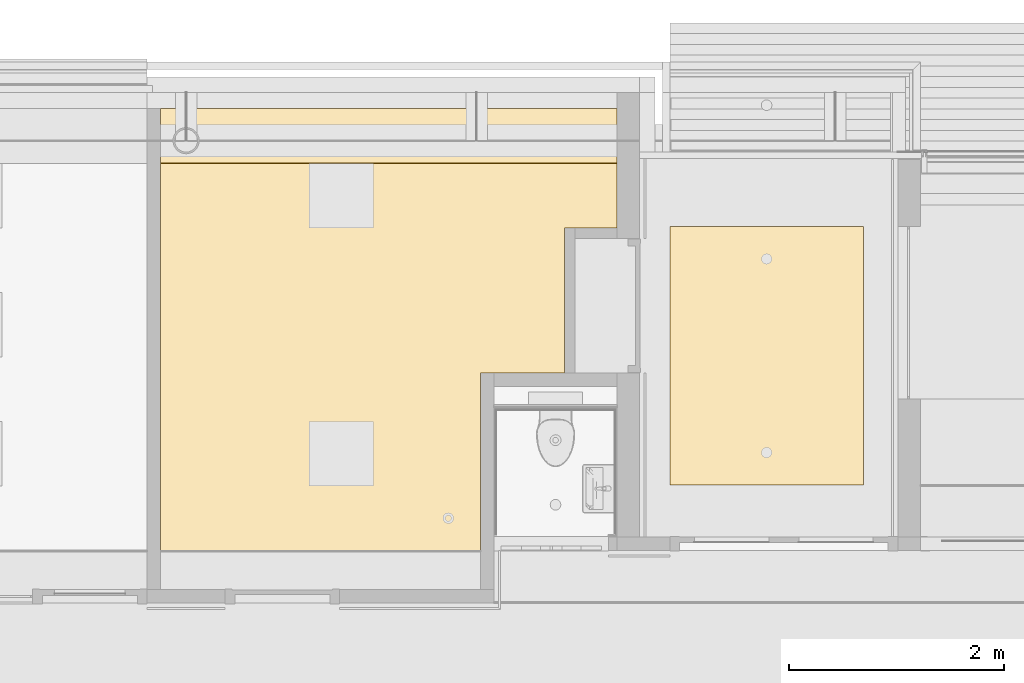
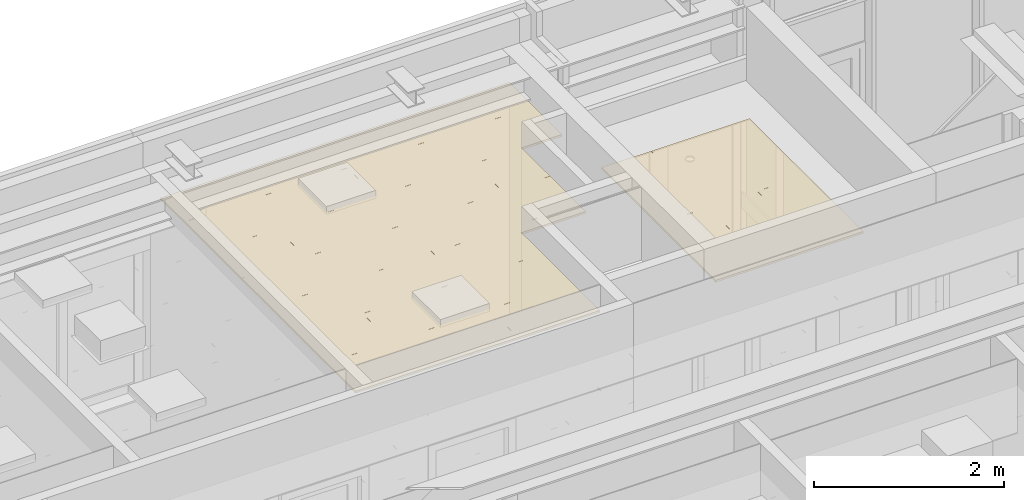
# One storey, part 161 of 347: 2 coverings.
"""IFC2X3 building model written with IfcOpenShell, lengths in millimetres."""

from ifc_helpers import new_model, entity, si_unit, converted_unit, derived_unit, money_unit, direction, frame, origin_with_axes, place, context, subcontext, project, spatial, faceted_brep, type_object, element, save


model = new_model("IFC2X3")

# Units and contexts
model_context = context("Model", 3, precision=0.01, world=origin_with_axes(), true_north=direction((0.0, 1.0)))
plan_context = context("Plan", 3, precision=0.01, world=origin_with_axes(), true_north=direction((0.0, 1.0)))
body_context = subcontext(model_context, "Body", "Model", "MODEL_VIEW")
ifc_project = project(units=[si_unit("LENGTHUNIT", "METRE", prefix="MILLI"), si_unit("AREAUNIT", "SQUARE_METRE"), si_unit("VOLUMEUNIT", "CUBIC_METRE"), converted_unit("PLANEANGLEUNIT", "DEGREE", entity("IfcPlaneAngleMeasure", 0.0174532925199), si_unit("PLANEANGLEUNIT", "RADIAN"), dimensions=[0, 0, 0, 0, 0, 0, 0]), money_unit("EUR"), converted_unit("TIMEUNIT", "Year", entity("IfcTimeMeasure", 31556926.0), si_unit("TIMEUNIT", "SECOND"), dimensions=[0, 0, 1, 0, 0, 0, 0]), si_unit("MASSUNIT", "GRAM", prefix="KILO"), si_unit("THERMODYNAMICTEMPERATUREUNIT", "DEGREE_CELSIUS"), si_unit("LUMINOUSINTENSITYUNIT", "LUMEN"), si_unit("ENERGYUNIT", "JOULE", prefix="MEGA"), derived_unit("THERMALCONDUCTANCEUNIT", [(si_unit("POWERUNIT", "WATT"), 1), (si_unit("LENGTHUNIT", "METRE"), -1), (si_unit("THERMODYNAMICTEMPERATUREUNIT", "KELVIN"), -1)]), derived_unit("SPECIFICHEATCAPACITYUNIT", [(si_unit("ENERGYUNIT", "JOULE"), 1), (si_unit("MASSUNIT", "GRAM", prefix="KILO"), -1), (si_unit("THERMODYNAMICTEMPERATUREUNIT", "KELVIN"), -1)]), derived_unit("MASSDENSITYUNIT", [(si_unit("MASSUNIT", "GRAM", prefix="KILO"), 1), (si_unit("VOLUMEUNIT", "CUBIC_METRE"), -1)])], contexts=[model_context, plan_context])

# Site, building, storey
site_placement = place(None, origin_with_axes())
site = spatial("IfcSite", under=ifc_project, at=site_placement, Name="Site", CompositionType="ELEMENT")
building_placement = place(site_placement, origin_with_axes())
building = spatial("IfcBuilding", under=site, at=building_placement, Name="Naam gebouw", CompositionType="ELEMENT")
storey_placement = place(building_placement, origin_with_axes())
storey = spatial("IfcBuildingStorey", under=building, at=storey_placement, Name="begane grond", CompositionType="ELEMENT", Elevation=0.0)

# Coverings
covering_type = type_object("IfcCoveringType", Name="Ceiling Editor INT_v2.01", PredefinedType="CEILING")
covering_1_placement = place(storey_placement, frame((16285.0000525, 15500.0, 2600.0), z_axis=(0.0, 0.0, 1.0), x_axis=(1.0, 0.0, 0.0)))
element("IfcCovering", 1, at=covering_1_placement, inside=storey, type_object=covering_type, Name="45 Plafondafwerkingen_77 garderobe", PredefinedType="CEILING", context=body_context, shape_type="Brep", body=[
    faceted_brep([(599.9, 0.100000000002, 20.0), (599.9, 0.100000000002, 0.0), (599.9, 1199.9, 0.0), (599.9, 1199.9, 20.0), (0.1, 0.100000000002, 20.0), (0.1, 0.100000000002, 0.0), (0.1, 1199.9, 0.0), (0.1, 1199.9, 20.0)], [[[0, 1, 2, 3]], [[4, 5, 1, 0]], [[2, 1, 5, 6]], [[3, 2, 6, 7]], [[4, 0, 3, 7]], [[7, 6, 5, 4]]]),
    faceted_brep([(599.9, 1200.1, 20.0), (599.9, 1200.1, 0.0), (599.9, 2399.9, 0.0), (599.9, 2399.9, 20.0), (0.1, 1200.1, 20.0), (0.1, 1200.1, 0.0), (0.1, 2399.9, 0.0), (0.1, 2399.9, 20.0)], [[[0, 1, 2, 3]], [[4, 5, 1, 0]], [[2, 1, 5, 6]], [[3, 2, 6, 7]], [[4, 0, 3, 7]], [[7, 6, 5, 4]]]),
    faceted_brep([(1199.9, 0.100000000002, 20.0), (1199.9, 0.100000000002, 0.0), (1199.9, 1199.9, 0.0), (1199.9, 1199.9, 20.0), (600.1, 0.100000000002, 20.0), (600.1, 0.100000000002, 0.0), (600.1, 1199.9, 0.0), (600.1, 1199.9, 20.0)], [[[0, 1, 2, 3]], [[4, 5, 1, 0]], [[2, 1, 5, 6]], [[3, 2, 6, 7]], [[4, 0, 3, 7]], [[7, 6, 5, 4]]]),
    faceted_brep([(1199.9, 1200.1, 20.0), (1199.9, 1200.1, 0.0), (1199.9, 2399.9, 0.0), (1199.9, 2399.9, 20.0), (600.1, 1200.1, 20.0), (600.1, 1200.1, 0.0), (600.1, 2399.9, 0.0), (600.1, 2399.9, 20.0)], [[[0, 1, 2, 3]], [[4, 5, 1, 0]], [[2, 1, 5, 6]], [[3, 2, 6, 7]], [[4, 0, 3, 7]], [[7, 6, 5, 4]]]),
    faceted_brep([(1799.9, 0.100000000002, 20.0), (1799.9, 0.100000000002, 0.0), (1799.9, 1199.9, 0.0), (1799.9, 1199.9, 20.0), (1200.1, 0.100000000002, 20.0), (1200.1, 0.100000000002, 0.0), (1200.1, 1199.9, 0.0), (1200.1, 1199.9, 20.0)], [[[0, 1, 2, 3]], [[4, 5, 1, 0]], [[2, 1, 5, 6]], [[3, 2, 6, 7]], [[4, 0, 3, 7]], [[7, 6, 5, 4]]]),
    faceted_brep([(1799.9, 1200.1, 20.0), (1799.9, 1200.1, 0.0), (1799.9, 2399.9, 0.0), (1799.9, 2399.9, 20.0), (1200.1, 1200.1, 20.0), (1200.1, 1200.1, 0.0), (1200.1, 2399.9, 0.0), (1200.1, 2399.9, 20.0)], [[[0, 1, 2, 3]], [[4, 5, 1, 0]], [[2, 1, 5, 6]], [[3, 2, 6, 7]], [[4, 0, 3, 7]], [[7, 6, 5, 4]]]),
    faceted_brep([(587.5, 25.0, -5.0), (587.5, 25.0, 0.0), (587.5, 1187.5, 0.0), (587.5, 1187.5, -5.0), (25.0, 25.0, -5.0), (25.0, 25.0, 0.0), (1350.0, 0.0, 0.0), (1800.0, 0.0, 0.0), (1800.0, 600.0, 0.0), (1800.0, 1200.0, 0.0), (1800.0, 1800.0, 0.0), (1800.0, 2400.0, 0.0), (1350.0, 2400.0, 0.0), (900.0, 2400.0, 0.0), (450.0, 2400.0, 0.0), (0.0, 2400.0, 0.0), (0.0, 1800.0, 0.0), (0.0, 1200.0, 0.0), (0.0, 600.0, 0.0), (0.0, 0.0, 0.0), (450.0, 0.0, 0.0), (900.0, 0.0, 0.0), (25.0, 1187.5, 0.0), (612.5, 25.0, 0.0), (612.5, 1187.5, 0.0), (1187.5, 1187.5, 0.0), (1187.5, 25.0, 0.0), (1212.5, 25.0, 0.0), (1212.5, 1187.5, 0.0), (1775.0, 1187.5, 0.0), (1775.0, 25.0, 0.0), (587.5, 2375.0, 0.0), (587.5, 1212.5, 0.0), (25.0, 1212.5, 0.0), (25.0, 2375.0, 0.0), (1187.5, 2375.0, 0.0), (1187.5, 1212.5, 0.0), (612.5, 1212.5, 0.0), (612.5, 2375.0, 0.0), (1775.0, 1212.5, 0.0), (1212.5, 1212.5, 0.0), (1212.5, 2375.0, 0.0), (1775.0, 2375.0, 0.0), (25.0, 1187.5, -5.0), (1800.0, 0.0, -5.0), (1350.0, 0.0, -5.0), (900.0, 0.0, -5.0), (450.0, 0.0, -5.0), (0.0, 0.0, -5.0), (0.0, 600.0, -5.0), (0.0, 1200.0, -5.0), (0.0, 1800.0, -5.0), (0.0, 2400.0, -5.0), (450.0, 2400.0, -5.0), (900.0, 2400.0, -5.0), (1350.0, 2400.0, -5.0), (1800.0, 2400.0, -5.0), (1800.0, 1800.0, -5.0), (1800.0, 1200.0, -5.0), (1800.0, 600.0, -5.0), (1187.5, 25.0, -5.0), (1187.5, 1187.5, -5.0), (612.5, 1187.5, -5.0), (612.5, 25.0, -5.0), (1775.0, 25.0, -5.0), (1775.0, 1187.5, -5.0), (1212.5, 1187.5, -5.0), (1212.5, 25.0, -5.0), (25.0, 2375.0, -5.0), (25.0, 1212.5, -5.0), (587.5, 1212.5, -5.0), (587.5, 2375.0, -5.0), (612.5, 2375.0, -5.0), (612.5, 1212.5, -5.0), (1187.5, 1212.5, -5.0), (1187.5, 2375.0, -5.0), (1775.0, 2375.0, -5.0), (1212.5, 2375.0, -5.0), (1212.5, 1212.5, -5.0), (1775.0, 1212.5, -5.0)], [[[0, 1, 2, 3]], [[1, 0, 4, 5]], [[6, 7, 8, 9, 10, 11, 12, 13, 14, 15, 16, 17, 18, 19, 20, 21], [1, 5, 22, 2], [23, 24, 25, 26], [27, 28, 29, 30], [31, 32, 33, 34], [35, 36, 37, 38], [39, 40, 41, 42]], [[22, 43, 3, 2]], [[44, 45, 46, 47, 48, 49, 50, 51, 52, 53, 54, 55, 56, 57, 58, 59], [0, 3, 43, 4], [60, 61, 62, 63], [64, 65, 66, 67], [68, 69, 70, 71], [72, 73, 74, 75], [76, 77, 78, 79]], [[43, 22, 5, 4]], [[6, 45, 44, 7]], [[44, 59, 8, 7]], [[59, 58, 9, 8]], [[58, 57, 10, 9]], [[57, 56, 11, 10]], [[12, 11, 56, 55]], [[55, 54, 13, 12]], [[54, 53, 14, 13]], [[53, 52, 15, 14]], [[52, 51, 16, 15]], [[51, 50, 17, 16]], [[50, 49, 18, 17]], [[49, 48, 19, 18]], [[47, 20, 19, 48]], [[46, 21, 20, 47]], [[45, 6, 21, 46]], [[23, 63, 62, 24]], [[62, 61, 25, 24]], [[60, 26, 25, 61]], [[23, 26, 60, 63]], [[27, 67, 66, 28]], [[65, 29, 28, 66]], [[64, 30, 29, 65]], [[27, 30, 64, 67]], [[31, 71, 70, 32]], [[69, 33, 32, 70]], [[68, 34, 33, 69]], [[71, 31, 34, 68]], [[35, 75, 74, 36]], [[37, 36, 74, 73]], [[72, 38, 37, 73]], [[75, 35, 38, 72]], [[39, 79, 78, 40]], [[77, 41, 40, 78]], [[76, 42, 41, 77]], [[39, 42, 76, 79]]]),
])
covering_2_placement = place(storey_placement, frame((11550.0, 14890.000144, 3200.0), z_axis=(0.0, 0.0, 1.0), x_axis=(1.0, 0.0, 0.0)))
element("IfcCovering", 2, at=covering_2_placement, inside=storey, type_object=covering_type, Name="45 Plafondafwerkingen_77 garderobe", PredefinedType="CEILING", context=body_context, shape_type="Brep", body=[
    faceted_brep([(0.0, 599.9, 0.0), (0.0, 599.9, 20.0), (778.9, 599.9, 20.0), (778.9, 599.9, 0.0), (0.0, 0.0999999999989, 0.0), (0.0, 0.0999999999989, 20.0), (778.9, 0.0999999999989, 20.0), (778.9, 0.0999999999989, 0.0)], [[[0, 1, 2, 3]], [[1, 0, 4, 5]], [[1, 5, 6, 2]], [[6, 7, 3, 2]], [[4, 0, 3, 7]], [[5, 4, 7, 6]]]),
    faceted_brep([(0.0, 1199.9, 0.0), (0.0, 1199.9, 20.0), (778.9, 1199.9, 20.0), (778.9, 1199.9, 0.0), (0.0, 877.499963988, 0.0), (0.0, 877.499963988, 20.0), (0.0, 600.1, 20.0), (778.9, 600.1, 20.0), (778.9, 600.1, 0.0), (0.0, 600.1, 0.0)], [[[0, 1, 2, 3]], [[1, 0, 4, 5]], [[5, 6, 7, 2, 1]], [[7, 8, 3, 2]], [[4, 0, 3, 8, 9]], [[6, 5, 4, 9]], [[6, 9, 8, 7]]]),
    faceted_brep([(0.0, 1799.9, 0.0), (0.0, 1799.9, 20.0), (778.9, 1799.9, 20.0), (778.9, 1799.9, 0.0), (0.0, 1754.99992798, 0.0), (0.0, 1754.99992798, 20.0), (0.0, 1200.1, 20.0), (778.9, 1200.1, 20.0), (778.9, 1200.1, 0.0), (0.0, 1200.1, 0.0)], [[[0, 1, 2, 3]], [[1, 0, 4, 5]], [[5, 6, 7, 2, 1]], [[7, 8, 3, 2]], [[4, 0, 3, 8, 9]], [[6, 5, 4, 9]], [[6, 9, 8, 7]]]),
    faceted_brep([(0.0, 2399.9, 0.0), (0.0, 2399.9, 20.0), (778.9, 2399.9, 20.0), (778.9, 2399.9, 0.0), (0.0, 1800.1, 0.0), (0.0, 1800.1, 20.0), (778.9, 1800.1, 20.0), (778.9, 1800.1, 0.0)], [[[0, 1, 2, 3]], [[1, 0, 4, 5]], [[1, 5, 6, 2]], [[6, 7, 3, 2]], [[4, 0, 3, 7]], [[5, 4, 7, 6]]]),
    faceted_brep([(0.0, 2999.9, 0.0), (0.0, 2999.9, 20.0), (778.9, 2999.9, 20.0), (778.9, 2999.9, 0.0), (0.0, 2632.49989196, 0.0), (0.0, 2632.49989196, 20.0), (0.0, 2400.1, 20.0), (778.9, 2400.1, 20.0), (778.9, 2400.1, 0.0), (0.0, 2400.1, 0.0)], [[[0, 1, 2, 3]], [[1, 0, 4, 5]], [[5, 6, 7, 2, 1]], [[7, 8, 3, 2]], [[4, 0, 3, 8, 9]], [[6, 5, 4, 9]], [[6, 9, 8, 7]]]),
    faceted_brep([(0.0, 3599.9, 0.0), (0.0, 3599.9, 20.0), (778.9, 3599.9, 20.0), (778.9, 3599.9, 0.0), (0.0, 3000.1, 0.0), (0.0, 3000.1, 20.0), (778.9, 3000.1, 20.0), (778.9, 3000.1, 0.0)], [[[0, 1, 2, 3]], [[1, 0, 4, 5]], [[1, 5, 6, 2]], [[6, 7, 3, 2]], [[4, 0, 3, 7]], [[5, 4, 7, 6]]]),
    faceted_brep([(778.9, 4109.99986144, 0.0), (778.9, 4109.99986144, 20.0), (778.9, 3600.1, 20.0), (778.9, 3600.1, 0.0), (0.0, 4109.99984092, 0.0), (0.0, 4109.99984092, 20.0), (0.0, 3600.1, 20.0), (0.0, 3600.1, 0.0)], [[[0, 1, 2, 3]], [[1, 0, 4, 5]], [[5, 6, 2, 1]], [[6, 7, 3, 2]], [[4, 0, 3, 7]], [[6, 5, 4, 7]]]),
    faceted_brep([(1978.9, 0.0999999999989, 20.0), (1978.9, 0.0999999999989, 0.0), (1978.9, 599.9, 0.0), (1978.9, 599.9, 20.0), (779.1, 0.0999999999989, 20.0), (779.1, 0.0999999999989, 0.0), (779.1, 599.9, 0.0), (779.1, 599.9, 20.0)], [[[0, 1, 2, 3]], [[4, 5, 1, 0]], [[2, 1, 5, 6]], [[3, 2, 6, 7]], [[4, 0, 3, 7]], [[7, 6, 5, 4]]]),
    faceted_brep([(1978.9, 600.1, 20.0), (1978.9, 600.1, 0.0), (1978.9, 1199.9, 0.0), (1978.9, 1199.9, 20.0), (779.1, 600.1, 20.0), (779.1, 600.1, 0.0), (779.1, 1199.9, 0.0), (779.1, 1199.9, 20.0)], [[[0, 1, 2, 3]], [[4, 5, 1, 0]], [[2, 1, 5, 6]], [[3, 2, 6, 7]], [[4, 0, 3, 7]], [[7, 6, 5, 4]]]),
    faceted_brep([(1978.9, 1200.1, 20.0), (1978.9, 1200.1, 0.0), (1978.9, 1799.9, 0.0), (1978.9, 1799.9, 20.0), (779.1, 1200.1, 20.0), (779.1, 1200.1, 0.0), (779.1, 1799.9, 0.0), (779.1, 1799.9, 20.0)], [[[0, 1, 2, 3]], [[4, 5, 1, 0]], [[2, 1, 5, 6]], [[3, 2, 6, 7]], [[4, 0, 3, 7]], [[7, 6, 5, 4]]]),
    faceted_brep([(1978.9, 1800.1, 20.0), (1978.9, 1800.1, 0.0), (1978.9, 2399.9, 0.0), (1978.9, 2399.9, 20.0), (779.1, 1800.1, 20.0), (779.1, 1800.1, 0.0), (779.1, 2399.9, 0.0), (779.1, 2399.9, 20.0)], [[[0, 1, 2, 3]], [[4, 5, 1, 0]], [[2, 1, 5, 6]], [[3, 2, 6, 7]], [[4, 0, 3, 7]], [[7, 6, 5, 4]]]),
    faceted_brep([(1978.9, 2400.1, 20.0), (1978.9, 2400.1, 0.0), (1978.9, 2999.9, 0.0), (1978.9, 2999.9, 20.0), (779.1, 2400.1, 20.0), (779.1, 2400.1, 0.0), (779.1, 2999.9, 0.0), (779.1, 2999.9, 20.0)], [[[0, 1, 2, 3]], [[4, 5, 1, 0]], [[2, 1, 5, 6]], [[3, 2, 6, 7]], [[4, 0, 3, 7]], [[7, 6, 5, 4]]]),
    faceted_brep([(1978.9, 3000.1, 20.0), (1978.9, 3000.1, 0.0), (1978.9, 3599.9, 0.0), (1978.9, 3599.9, 20.0), (779.1, 3000.1, 20.0), (779.1, 3000.1, 0.0), (779.1, 3599.9, 0.0), (779.1, 3599.9, 20.0)], [[[0, 1, 2, 3]], [[4, 5, 1, 0]], [[2, 1, 5, 6]], [[3, 2, 6, 7]], [[4, 0, 3, 7]], [[7, 6, 5, 4]]]),
    faceted_brep([(1978.9, 4109.99987108, 0.0), (1978.9, 4109.99987108, 20.0), (1978.9, 3600.1, 20.0), (1978.9, 3600.1, 0.0), (1000.34939117, 4109.99986144, 0.0), (1000.34939117, 4109.99986144, 20.0), (779.1, 4109.99986144, 20.0), (779.1, 3600.1, 20.0), (779.1, 3600.1, 0.0), (779.1, 4109.99986144, 0.0)], [[[0, 1, 2, 3]], [[1, 0, 4, 5]], [[5, 6, 7, 2, 1]], [[7, 8, 3, 2]], [[4, 0, 3, 8, 9]], [[6, 5, 4, 9]], [[6, 9, 8, 7]]]),
    faceted_brep([(2975.0, 0.0999999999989, 20.0), (2975.0, 599.9, 20.0), (1979.1, 599.9, 20.0), (1979.1, 0.0999999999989, 20.0), (2975.0, 0.0999999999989, 0.0), (2975.0, 599.9, 0.0), (1979.1, 599.9, 0.0), (1979.1, 0.0999999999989, 0.0)], [[[0, 1, 2, 3]], [[1, 0, 4, 5]], [[1, 5, 6, 2]], [[2, 6, 7, 3]], [[4, 0, 3, 7]], [[5, 4, 7, 6]]]),
    faceted_brep([(2975.0, 600.1, 20.0), (2975.0, 1199.9, 20.0), (1979.1, 1199.9, 20.0), (1979.1, 600.1, 20.0), (2975.0, 600.1, 0.0), (2975.0, 1199.9, 0.0), (1979.1, 1199.9, 0.0), (1979.1, 600.1, 0.0)], [[[0, 1, 2, 3]], [[1, 0, 4, 5]], [[1, 5, 6, 2]], [[2, 6, 7, 3]], [[4, 0, 3, 7]], [[5, 4, 7, 6]]]),
    faceted_brep([(2975.0, 1649.99985595, 20.0), (3178.9, 1649.99985595, 20.0), (3178.9, 1799.9, 20.0), (1979.1, 1799.9, 20.0), (1979.1, 1200.1, 20.0), (2975.0, 1200.1, 20.0), (2975.0, 1649.99985595, 0.0), (3178.9, 1649.99985595, 0.0), (3178.9, 1799.9, 0.0), (1979.1, 1799.9, 0.0), (1979.1, 1200.1, 0.0), (2975.0, 1200.1, 0.0)], [[[0, 1, 2, 3, 4, 5]], [[1, 0, 6, 7]], [[1, 7, 8, 2]], [[2, 8, 9, 3]], [[3, 9, 10, 4]], [[11, 5, 4, 10]], [[0, 5, 11, 6]], [[6, 11, 10, 9, 8, 7]]]),
    faceted_brep([(3178.9, 1800.1, 20.0), (3178.9, 1800.1, 0.0), (3178.9, 2399.9, 0.0), (3178.9, 2399.9, 20.0), (1979.1, 1800.1, 20.0), (1979.1, 1800.1, 0.0), (1979.1, 2399.9, 0.0), (1979.1, 2399.9, 20.0)], [[[0, 1, 2, 3]], [[4, 5, 1, 0]], [[2, 1, 5, 6]], [[3, 2, 6, 7]], [[4, 0, 3, 7]], [[7, 6, 5, 4]]]),
    faceted_brep([(3178.9, 2400.1, 20.0), (3178.9, 2400.1, 0.0), (3178.9, 2999.9, 0.0), (3178.9, 2999.9, 20.0), (1979.1, 2400.1, 20.0), (1979.1, 2400.1, 0.0), (1979.1, 2999.9, 0.0), (1979.1, 2999.9, 20.0)], [[[0, 1, 2, 3]], [[4, 5, 1, 0]], [[2, 1, 5, 6]], [[3, 2, 6, 7]], [[4, 0, 3, 7]], [[7, 6, 5, 4]]]),
    faceted_brep([(3178.9, 3000.1, 20.0), (3178.9, 3000.1, 0.0), (3178.9, 3599.9, 0.0), (3178.9, 3599.9, 20.0), (1979.1, 3000.1, 20.0), (1979.1, 3000.1, 0.0), (1979.1, 3599.9, 0.0), (1979.1, 3599.9, 20.0)], [[[0, 1, 2, 3]], [[4, 5, 1, 0]], [[2, 1, 5, 6]], [[3, 2, 6, 7]], [[4, 0, 3, 7]], [[7, 6, 5, 4]]]),
    faceted_brep([(3178.9, 4109.99985595, 0.0), (3178.9, 4109.99985595, 20.0), (3178.9, 3600.1, 20.0), (3178.9, 3600.1, 0.0), (2974.99999751, 4109.99987108, 0.0), (2974.99999751, 4109.99987108, 20.0), (1979.1, 4109.99987108, 20.0), (1979.1, 3600.1, 20.0), (1979.1, 3600.1, 0.0), (1979.1, 4109.99987108, 0.0)], [[[0, 1, 2, 3]], [[1, 0, 4, 5]], [[5, 6, 7, 2, 1]], [[7, 8, 3, 2]], [[4, 0, 3, 8, 9]], [[6, 5, 4, 9]], [[6, 9, 8, 7]]]),
    faceted_brep([(3755.0, 1649.99985595, 20.0), (3755.0, 1799.9, 20.0), (3179.1, 1799.9, 20.0), (3179.1, 1649.99985595, 20.0), (3755.0, 1649.99985595, 0.0), (3755.0, 1799.9, 0.0), (3179.1, 1799.9, 0.0), (3179.1, 1649.99985595, 0.0)], [[[0, 1, 2, 3]], [[1, 0, 4, 5]], [[1, 5, 6, 2]], [[7, 3, 2, 6]], [[0, 3, 7, 4]], [[4, 7, 6, 5]]]),
    faceted_brep([(3755.0, 1800.1, 20.0), (3755.0, 2399.9, 20.0), (3179.1, 2399.9, 20.0), (3179.1, 1800.1, 20.0), (3755.0, 1800.1, 0.0), (3755.0, 2399.9, 0.0), (3179.1, 2399.9, 0.0), (3179.1, 1800.1, 0.0)], [[[0, 1, 2, 3]], [[1, 0, 4, 5]], [[1, 5, 6, 2]], [[2, 6, 7, 3]], [[4, 0, 3, 7]], [[5, 4, 7, 6]]]),
    faceted_brep([(3755.0, 2400.1, 20.0), (3755.0, 2999.9, 20.0), (3179.1, 2999.9, 20.0), (3179.1, 2400.1, 20.0), (3755.0, 2400.1, 0.0), (3755.0, 2999.9, 0.0), (3179.1, 2999.9, 0.0), (3179.1, 2400.1, 0.0)], [[[0, 1, 2, 3]], [[1, 0, 4, 5]], [[1, 5, 6, 2]], [[2, 6, 7, 3]], [[4, 0, 3, 7]], [[5, 4, 7, 6]]]),
    faceted_brep([(4245.0, 3000.1, 20.0), (4245.0, 3599.9, 20.0), (3179.1, 3599.9, 20.0), (3179.1, 3000.1, 20.0), (4245.0, 3000.1, 0.0), (4245.0, 3599.9, 0.0), (3179.1, 3599.9, 0.0), (3179.1, 3000.1, 0.0)], [[[0, 1, 2, 3]], [[1, 0, 4, 5]], [[1, 5, 6, 2]], [[2, 6, 7, 3]], [[4, 0, 3, 7]], [[5, 4, 7, 6]]]),
    faceted_brep([(4245.0, 3600.1, 20.0), (4245.0, 4109.99985595, 20.0), (3179.1, 4109.99985595, 20.0), (3179.1, 3600.1, 20.0), (4245.0, 3600.1, 0.0), (4245.0, 4109.99985595, 0.0), (3179.1, 4109.99985595, 0.0), (3179.1, 3600.1, 0.0)], [[[0, 1, 2, 3]], [[1, 0, 4, 5]], [[2, 1, 5, 6]], [[2, 6, 7, 3]], [[4, 0, 3, 7]], [[5, 4, 7, 6]]]),
    faceted_brep([(766.5, 25.0, -5.0), (766.5, 25.0, 0.0), (766.5, 587.5, 0.0), (766.5, 587.5, -5.0), (25.0, 25.0, -5.0), (25.0, 25.0, 0.0), (2975.0, 1649.99985595, 0.0), (3166.5, 1649.99985595, 0.0), (3191.5, 1649.99985595, 0.0), (3755.0, 1649.99985595, 0.0), (3755.0, 1787.5, 0.0), (3755.0, 1812.5, 0.0), (3755.0, 2387.5, 0.0), (3755.0, 2412.5, 0.0), (3755.0, 2987.5, 0.0), (3755.0, 2999.99985595, 0.0), (4245.0, 2999.99985595, 0.0), (4245.0, 3012.5, 0.0), (4245.0, 3587.5, 0.0), (4245.0, 3612.5, 0.0), (4245.0, 4109.99985595, 0.0), (3191.5, 4109.99986352, 0.0), (3166.5, 4109.99986352, 0.0), (1991.5, 4109.99986626, 0.0), (1966.5, 4109.99986626, 0.0), (791.5, 4109.99985118, 0.0), (766.5, 4109.99985118, 0.0), (0.0, 4109.99985118, 0.0), (0.0, 3612.5, 0.0), (0.0, 3587.5, 0.0), (0.0, 3012.5, 0.0), (0.0, 2987.5, 0.0), (0.0, 2412.5, 0.0), (0.0, 2387.5, 0.0), (0.0, 1812.5, 0.0), (0.0, 1787.5, 0.0), (0.0, 1212.5, 0.0), (0.0, 1187.5, 0.0), (0.0, 612.5, 0.0), (0.0, 587.5, 0.0), (0.0, 12.5, 0.0), (0.0, 0.0, 0.0), (743.75, 0.0, 0.0), (1487.5, 0.0, 0.0), (2231.25, 0.0, 0.0), (2975.0, 0.0, 0.0), (2975.0, 12.5, 0.0), (2975.0, 587.5, 0.0), (2975.0, 612.5, 0.0), (2975.0, 1187.5, 0.0), (2975.0, 1212.5, 0.0), (791.5, 25.0, 0.0), (791.5, 587.5, 0.0), (1966.5, 587.5, 0.0), (1966.5, 25.0, 0.0), (791.5, 1187.5, 0.0), (1966.5, 1187.5, 0.0), (1966.5, 612.5, 0.0), (791.5, 612.5, 0.0), (791.5, 1787.5, 0.0), (1966.5, 1787.5, 0.0), (1966.5, 1212.5, 0.0), (791.5, 1212.5, 0.0), (791.5, 2387.5, 0.0), (1966.5, 2387.5, 0.0), (1966.5, 1812.5, 0.0), (791.5, 1812.5, 0.0), (1991.5, 2387.5, 0.0), (3166.5, 2387.5, 0.0), (3166.5, 1812.5, 0.0), (1991.5, 1812.5, 0.0), (791.5, 2987.5, 0.0), (1966.5, 2987.5, 0.0), (1966.5, 2412.5, 0.0), (791.5, 2412.5, 0.0), (1991.5, 2987.5, 0.0), (3166.5, 2987.5, 0.0), (3166.5, 2412.5, 0.0), (1991.5, 2412.5, 0.0), (791.5, 3587.5, 0.0), (1966.5, 3587.5, 0.0), (1966.5, 3012.5, 0.0), (791.5, 3012.5, 0.0), (1991.5, 3587.5, 0.0), (3166.5, 3587.5, 0.0), (3166.5, 3012.5, 0.0), (1991.5, 3012.5, 0.0), (25.0, 587.5, 0.0), (25.0, 1187.5, 0.0), (766.5, 1187.5, 0.0), (766.5, 612.5, 0.0), (25.0, 612.5, 0.0), (25.0, 1787.5, 0.0), (766.5, 1787.5, 0.0), (766.5, 1212.5, 0.0), (25.0, 1212.5, 0.0), (25.0, 2387.5, 0.0), (766.5, 2387.5, 0.0), (766.5, 1812.5, 0.0), (25.0, 1812.5, 0.0), (25.0, 2987.5, 0.0), (766.5, 2987.5, 0.0), (766.5, 2412.5, 0.0), (25.0, 2412.5, 0.0), (25.0, 3587.5, 0.0), (766.5, 3587.5, 0.0), (766.5, 3012.5, 0.0), (25.0, 3012.5, 0.0), (766.5, 4084.99985118, 0.0), (766.5, 3612.5, 0.0), (25.0, 3612.5, 0.0), (25.0, 4084.99985118, 0.0), (1966.5, 4084.99986626, 0.0), (1966.5, 3612.5, 0.0), (791.5, 3612.5, 0.0), (791.5, 4084.99985118, 0.0), (3166.5, 4084.99986352, 0.0), (3166.5, 3612.5, 0.0), (1991.5, 3612.5, 0.0), (1991.5, 4084.99986626, 0.0), (3730.0, 3012.5, 0.0), (3191.5, 3012.5, 0.0), (3191.5, 3587.5, 0.0), (4220.0, 3587.5, 0.0), (4220.0, 3024.99985595, 0.0), (3730.0, 3024.99985595, 0.0), (4220.0, 4084.99985595, 0.0), (4220.0, 3612.5, 0.0), (3191.5, 3612.5, 0.0), (3191.5, 4084.99986352, 0.0), (3730.0, 2387.5, 0.0), (3730.0, 1812.5, 0.0), (3191.5, 1812.5, 0.0), (3191.5, 2387.5, 0.0), (3730.0, 2987.5, 0.0), (3730.0, 2412.5, 0.0), (3191.5, 2412.5, 0.0), (3191.5, 2987.5, 0.0), (3730.0, 1674.99985595, 0.0), (3191.5, 1674.99985595, 0.0), (3191.5, 1787.5, 0.0), (3730.0, 1787.5, 0.0), (1991.5, 25.0, 0.0), (1991.5, 587.5, 0.0), (2950.0, 587.5, 0.0), (2950.0, 25.0, 0.0), (2950.0, 1187.5, 0.0), (2950.0, 612.5, 0.0), (1991.5, 612.5, 0.0), (1991.5, 1187.5, 0.0), (2950.0, 1674.99985595, 0.0), (2950.0, 1212.5, 0.0), (1991.5, 1212.5, 0.0), (1991.5, 1787.5, 0.0), (3166.5, 1787.5, 0.0), (3166.5, 1674.99985595, 0.0), (25.0, 587.5, -5.0), (2975.0, 1649.99985595, -5.0), (2975.0, 1212.5, -5.0), (2975.0, 1187.5, -5.0), (2975.0, 612.5, -5.0), (2975.0, 587.5, -5.0), (2975.0, 12.5, -5.0), (2975.0, 0.0, -5.0), (2231.25, 0.0, -5.0), (1487.5, 0.0, -5.0), (743.75, 0.0, -5.0), (0.0, 0.0, -5.0), (0.0, 12.5, -5.0), (0.0, 587.5, -5.0), (0.0, 612.5, -5.0), (0.0, 1187.5, -5.0), (0.0, 1212.5, -5.0), (0.0, 1787.5, -5.0), (0.0, 1812.5, -5.0), (0.0, 2387.5, -5.0), (0.0, 2412.5, -5.0), (0.0, 2987.5, -5.0), (0.0, 3012.5, -5.0), (0.0, 3587.5, -5.0), (0.0, 3612.5, -5.0), (0.0, 4109.99985118, -5.0), (766.5, 4109.99985118, -5.0), (791.5, 4109.99985118, -5.0), (1966.5, 4109.99986626, -5.0), (1991.5, 4109.99986626, -5.0), (3166.5, 4109.99986352, -5.0), (3191.5, 4109.99986352, -5.0), (4245.0, 4109.99985595, -5.0), (4245.0, 3612.5, -5.0), (4245.0, 3587.5, -5.0), (4245.0, 3012.5, -5.0), (4245.0, 2999.99985595, -5.0), (3755.0, 2999.99985595, -5.0), (3755.0, 2987.5, -5.0), (3755.0, 2412.5, -5.0), (3755.0, 2387.5, -5.0), (3755.0, 1812.5, -5.0), (3755.0, 1787.5, -5.0), (3755.0, 1649.99985595, -5.0), (3191.5, 1649.99985595, -5.0), (3166.5, 1649.99985595, -5.0), (1966.5, 25.0, -5.0), (1966.5, 587.5, -5.0), (791.5, 587.5, -5.0), (791.5, 25.0, -5.0), (1966.5, 612.5, -5.0), (1966.5, 1187.5, -5.0), (791.5, 1187.5, -5.0), (791.5, 612.5, -5.0), (1966.5, 1212.5, -5.0), (1966.5, 1787.5, -5.0), (791.5, 1787.5, -5.0), (791.5, 1212.5, -5.0), (1966.5, 1812.5, -5.0), (1966.5, 2387.5, -5.0), (791.5, 2387.5, -5.0), (791.5, 1812.5, -5.0), (3166.5, 1812.5, -5.0), (3166.5, 2387.5, -5.0), (1991.5, 2387.5, -5.0), (1991.5, 1812.5, -5.0), (1966.5, 2412.5, -5.0), (1966.5, 2987.5, -5.0), (791.5, 2987.5, -5.0), (791.5, 2412.5, -5.0), (3166.5, 2412.5, -5.0), (3166.5, 2987.5, -5.0), (1991.5, 2987.5, -5.0), (1991.5, 2412.5, -5.0), (1966.5, 3012.5, -5.0), (1966.5, 3587.5, -5.0), (791.5, 3587.5, -5.0), (791.5, 3012.5, -5.0), (3166.5, 3012.5, -5.0), (3166.5, 3587.5, -5.0), (1991.5, 3587.5, -5.0), (1991.5, 3012.5, -5.0), (25.0, 1187.5, -5.0), (25.0, 612.5, -5.0), (766.5, 612.5, -5.0), (766.5, 1187.5, -5.0), (25.0, 1787.5, -5.0), (25.0, 1212.5, -5.0), (766.5, 1212.5, -5.0), (766.5, 1787.5, -5.0), (25.0, 2387.5, -5.0), (25.0, 1812.5, -5.0), (766.5, 1812.5, -5.0), (766.5, 2387.5, -5.0), (25.0, 2987.5, -5.0), (25.0, 2412.5, -5.0), (766.5, 2412.5, -5.0), (766.5, 2987.5, -5.0), (25.0, 3587.5, -5.0), (25.0, 3012.5, -5.0), (766.5, 3012.5, -5.0), (766.5, 3587.5, -5.0), (766.5, 4084.99985118, -5.0), (25.0, 4084.99985118, -5.0), (25.0, 3612.5, -5.0), (766.5, 3612.5, -5.0), (1966.5, 4084.99986626, -5.0), (791.5, 4084.99985118, -5.0), (791.5, 3612.5, -5.0), (1966.5, 3612.5, -5.0), (3166.5, 4084.99986352, -5.0), (1991.5, 4084.99986626, -5.0), (1991.5, 3612.5, -5.0), (3166.5, 3612.5, -5.0), (3730.0, 3024.99985595, -5.0), (4220.0, 3024.99985595, -5.0), (4220.0, 3587.5, -5.0), (3191.5, 3587.5, -5.0), (3191.5, 3012.5, -5.0), (3730.0, 3012.5, -5.0), (4220.0, 4084.99985595, -5.0), (3191.5, 4084.99986352, -5.0), (3191.5, 3612.5, -5.0), (4220.0, 3612.5, -5.0), (3730.0, 2387.5, -5.0), (3191.5, 2387.5, -5.0), (3191.5, 1812.5, -5.0), (3730.0, 1812.5, -5.0), (3730.0, 2987.5, -5.0), (3191.5, 2987.5, -5.0), (3191.5, 2412.5, -5.0), (3730.0, 2412.5, -5.0), (3730.0, 1674.99985595, -5.0), (3730.0, 1787.5, -5.0), (3191.5, 1787.5, -5.0), (3191.5, 1674.99985595, -5.0), (2950.0, 25.0, -5.0), (2950.0, 587.5, -5.0), (1991.5, 587.5, -5.0), (1991.5, 25.0, -5.0), (2950.0, 1187.5, -5.0), (1991.5, 1187.5, -5.0), (1991.5, 612.5, -5.0), (2950.0, 612.5, -5.0), (2950.0, 1674.99985595, -5.0), (3166.5, 1674.99985595, -5.0), (3166.5, 1787.5, -5.0), (1991.5, 1787.5, -5.0), (1991.5, 1212.5, -5.0), (2950.0, 1212.5, -5.0)], [[[0, 1, 2, 3]], [[1, 0, 4, 5]], [[6, 7, 8, 9, 10, 11, 12, 13, 14, 15, 16, 17, 18, 19, 20, 21, 22, 23, 24, 25, 26, 27, 28, 29, 30, 31, 32, 33, 34, 35, 36, 37, 38, 39, 40, 41, 42, 43, 44, 45, 46, 47, 48, 49, 50], [51, 52, 53, 54], [55, 56, 57, 58], [59, 60, 61, 62], [63, 64, 65, 66], [67, 68, 69, 70], [71, 72, 73, 74], [75, 76, 77, 78], [79, 80, 81, 82], [83, 84, 85, 86], [1, 5, 87, 2], [88, 89, 90, 91], [92, 93, 94, 95], [96, 97, 98, 99], [100, 101, 102, 103], [104, 105, 106, 107], [108, 109, 110, 111], [112, 113, 114, 115], [116, 117, 118, 119], [120, 121, 122, 123, 124, 125], [126, 127, 128, 129], [130, 131, 132, 133], [134, 135, 136, 137], [138, 139, 140, 141], [142, 143, 144, 145], [146, 147, 148, 149], [150, 151, 152, 153, 154, 155]], [[87, 156, 3, 2]], [[157, 158, 159, 160, 161, 162, 163, 164, 165, 166, 167, 168, 169, 170, 171, 172, 173, 174, 175, 176, 177, 178, 179, 180, 181, 182, 183, 184, 185, 186, 187, 188, 189, 190, 191, 192, 193, 194, 195, 196, 197, 198, 199, 200, 201], [202, 203, 204, 205], [206, 207, 208, 209], [210, 211, 212, 213], [214, 215, 216, 217], [218, 219, 220, 221], [222, 223, 224, 225], [226, 227, 228, 229], [230, 231, 232, 233], [234, 235, 236, 237], [0, 3, 156, 4], [238, 239, 240, 241], [242, 243, 244, 245], [246, 247, 248, 249], [250, 251, 252, 253], [254, 255, 256, 257], [258, 259, 260, 261], [262, 263, 264, 265], [266, 267, 268, 269], [270, 271, 272, 273, 274, 275], [276, 277, 278, 279], [280, 281, 282, 283], [284, 285, 286, 287], [288, 289, 290, 291], [292, 293, 294, 295], [296, 297, 298, 299], [300, 301, 302, 303, 304, 305]], [[156, 87, 5, 4]], [[6, 157, 201, 200, 199, 9, 8, 7]], [[9, 199, 198, 197, 196, 195, 194, 193, 15, 14, 13, 12, 11, 10]], [[193, 192, 16, 15]], [[188, 20, 19, 18, 17, 16, 192, 191, 190, 189]], [[20, 188, 187, 186, 185, 184, 183, 182, 181, 27, 26, 25, 24, 23, 22, 21]], [[27, 181, 180, 179, 178, 177, 176, 175, 174, 173, 172, 171, 170, 169, 168, 167, 41, 40, 39, 38, 37, 36, 35, 34, 33, 32, 31, 30, 29, 28]], [[167, 166, 42, 41]], [[165, 43, 42, 166]], [[164, 44, 43, 165]], [[164, 163, 45, 44]], [[157, 6, 50, 49, 48, 47, 46, 45, 163, 162, 161, 160, 159, 158]], [[51, 205, 204, 52]], [[204, 203, 53, 52]], [[202, 54, 53, 203]], [[51, 54, 202, 205]], [[208, 207, 56, 55]], [[57, 56, 207, 206]], [[58, 57, 206, 209]], [[209, 208, 55, 58]], [[212, 211, 60, 59]], [[61, 60, 211, 210]], [[62, 61, 210, 213]], [[213, 212, 59, 62]], [[216, 215, 64, 63]], [[65, 64, 215, 214]], [[66, 65, 214, 217]], [[217, 216, 63, 66]], [[220, 219, 68, 67]], [[69, 68, 219, 218]], [[218, 221, 70, 69]], [[221, 220, 67, 70]], [[224, 223, 72, 71]], [[73, 72, 223, 222]], [[74, 73, 222, 225]], [[225, 224, 71, 74]], [[228, 227, 76, 75]], [[77, 76, 227, 226]], [[78, 77, 226, 229]], [[229, 228, 75, 78]], [[232, 231, 80, 79]], [[81, 80, 231, 230]], [[82, 81, 230, 233]], [[233, 232, 79, 82]], [[236, 235, 84, 83]], [[85, 84, 235, 234]], [[86, 85, 234, 237]], [[237, 236, 83, 86]], [[88, 238, 241, 89]], [[90, 89, 241, 240]], [[239, 91, 90, 240]], [[238, 88, 91, 239]], [[92, 242, 245, 93]], [[94, 93, 245, 244]], [[243, 95, 94, 244]], [[242, 92, 95, 243]], [[96, 246, 249, 97]], [[98, 97, 249, 248]], [[247, 99, 98, 248]], [[246, 96, 99, 247]], [[100, 250, 253, 101]], [[102, 101, 253, 252]], [[251, 103, 102, 252]], [[250, 100, 103, 251]], [[104, 254, 257, 105]], [[106, 105, 257, 256]], [[255, 107, 106, 256]], [[254, 104, 107, 255]], [[108, 258, 261, 109]], [[260, 110, 109, 261]], [[259, 111, 110, 260]], [[258, 108, 111, 259]], [[112, 262, 265, 113]], [[114, 113, 265, 264]], [[263, 115, 114, 264]], [[262, 112, 115, 263]], [[116, 266, 269, 117]], [[118, 117, 269, 268]], [[267, 119, 118, 268]], [[266, 116, 119, 267]], [[120, 275, 274, 121]], [[274, 273, 122, 121]], [[272, 123, 122, 273]], [[271, 124, 123, 272]], [[270, 125, 124, 271]], [[125, 270, 275, 120]], [[126, 276, 279, 127]], [[127, 279, 278, 128]], [[277, 129, 128, 278]], [[276, 126, 129, 277]], [[130, 280, 283, 131]], [[131, 283, 282, 132]], [[282, 281, 133, 132]], [[280, 130, 133, 281]], [[134, 284, 287, 135]], [[135, 287, 286, 136]], [[286, 285, 137, 136]], [[284, 134, 137, 285]], [[138, 288, 291, 139]], [[139, 291, 290, 140]], [[289, 141, 140, 290]], [[288, 138, 141, 289]], [[142, 295, 294, 143]], [[293, 144, 143, 294]], [[292, 145, 144, 293]], [[142, 145, 292, 295]], [[146, 296, 299, 147]], [[147, 299, 298, 148]], [[298, 297, 149, 148]], [[296, 146, 149, 297]], [[150, 300, 305, 151]], [[151, 305, 304, 152]], [[304, 303, 153, 152]], [[154, 153, 303, 302]], [[301, 155, 154, 302]], [[300, 150, 155, 301]]]),
])

save(model, "model.ifc")
